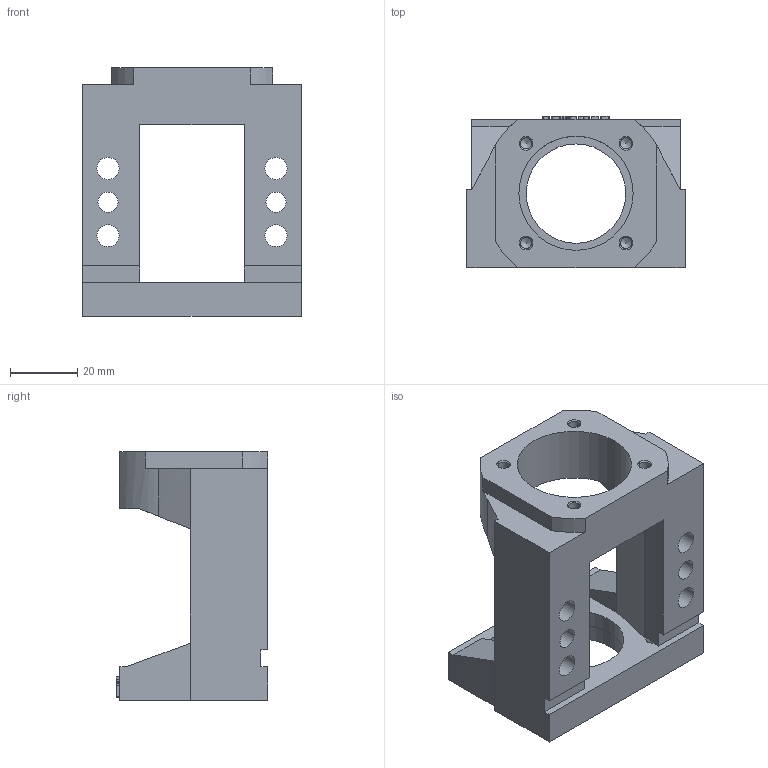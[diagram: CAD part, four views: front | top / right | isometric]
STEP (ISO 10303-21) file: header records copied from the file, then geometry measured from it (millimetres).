
FILE_DESCRIPTION(/* description */ (''),/* implementation_level */ '2;1');
FILE_NAME(/* name */ 'M40B-FK10-A.stp',/* time_stamp */ '2016-10-27T09:53:12+08:00',/* author */ (''),/* organization */ (''),/* preprocessor_version */ 'ST-DEVELOPER v15',/* originating_system */ 'SIEMENS PLM Software NX 8.5',/* authorisation */ '');
FILE_SCHEMA (('CONFIG_CONTROL_DESIGN'));
Length unit declared in the file: millimetre
Products named in the file (1): MBA10-B
Bounding box: 65 x 45 x 74 mm (x, y, z)
Volume: 76923.4 mm3; surface area: 25223.7 mm2
Topology: 1 solids, 1 shells, 186 faces, 512 edges, 340 vertices
Faces by surface type: plane 102, extrusion 41, cylinder 29, cone 14
Full cylindrical faces by diameter (mm): 3.3 x8, 6 x2, 6.6 x6, 11 x4, 29.6 x1, 30 x1, 34 x1
Entity records: 6206 total; most frequent: CARTESIAN_POINT 1921, ORIENTED_EDGE 906, DIRECTION 666, EDGE_CURVE 453, VERTEX_POINT 324, EDGE_LOOP 261, VECTOR 238, B_SPLINE_CURVE_WITH_KNOTS 225
